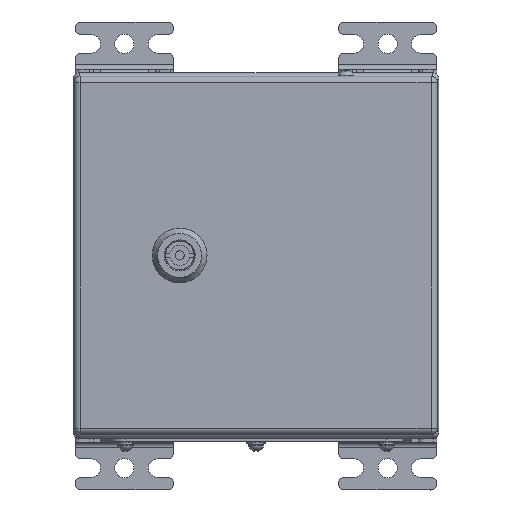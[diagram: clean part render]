
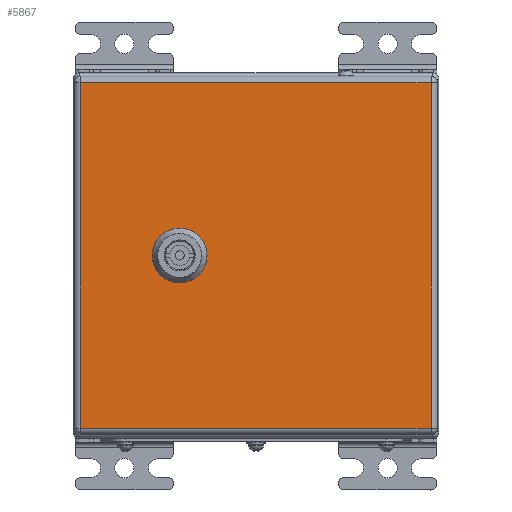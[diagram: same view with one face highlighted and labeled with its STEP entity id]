
A CAD part, top view. The second image highlights one B-rep face of the part: STEP entity #5867.
In plain terms, the highlighted planar face has unit normal (0, 0, 1).
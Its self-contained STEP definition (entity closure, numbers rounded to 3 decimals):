
#5867=ADVANCED_FACE('',(#13867,#13869),#13871,.T.);
#13867=FACE_BOUND('',#13868,.T.);
#13868=EDGE_LOOP('',(#36493,#36494,#36495,#36496));
#13869=FACE_BOUND('',#13870,.T.);
#13870=EDGE_LOOP('',(#36497,#36498,#36499,#36500,#36501,#36502,#36503,#36504));
#13871=PLANE('',#13872);
#13872=AXIS2_PLACEMENT_3D('',#13873,#13874,#13875);
#13873=CARTESIAN_POINT('',(0.,0.,1.5));
#13874=DIRECTION('',(0.,0.,1.));
#13875=DIRECTION('',(1.,0.,0.));
#36493=ORIENTED_EDGE('',*,*,#40963,.T.);
#36494=ORIENTED_EDGE('',*,*,#40964,.T.);
#36495=ORIENTED_EDGE('',*,*,#40965,.T.);
#36496=ORIENTED_EDGE('',*,*,#40966,.T.);
#36497=ORIENTED_EDGE('',*,*,#40925,.T.);
#36498=ORIENTED_EDGE('',*,*,#40940,.T.);
#36499=ORIENTED_EDGE('',*,*,#40938,.T.);
#36500=ORIENTED_EDGE('',*,*,#40936,.T.);
#36501=ORIENTED_EDGE('',*,*,#40934,.T.);
#36502=ORIENTED_EDGE('',*,*,#40932,.T.);
#36503=ORIENTED_EDGE('',*,*,#40930,.T.);
#36504=ORIENTED_EDGE('',*,*,#40928,.T.);
#40925=EDGE_CURVE('',#44552,#44553,#44554,.F.);
#40928=EDGE_CURVE('',#44557,#44552,#44558,.F.);
#40930=EDGE_CURVE('',#44560,#44557,#44561,.F.);
#40932=EDGE_CURVE('',#44563,#44560,#44564,.F.);
#40934=EDGE_CURVE('',#44566,#44563,#44567,.F.);
#40936=EDGE_CURVE('',#44569,#44566,#44570,.F.);
#40938=EDGE_CURVE('',#44572,#44569,#44573,.F.);
#40940=EDGE_CURVE('',#44553,#44572,#44575,.F.);
#40963=EDGE_CURVE('',#44612,#44613,#44614,.T.);
#40964=EDGE_CURVE('',#44613,#44615,#44616,.T.);
#40965=EDGE_CURVE('',#44615,#44617,#44618,.T.);
#40966=EDGE_CURVE('',#44617,#44612,#44619,.T.);
#44552=VERTEX_POINT('',#54154);
#44553=VERTEX_POINT('',#54155);
#44554=LINE('',#54156,#54157);
#44557=VERTEX_POINT('',#54165);
#44558=CIRCLE('',#54166,11.25);
#44560=VERTEX_POINT('',#54173);
#44561=LINE('',#54174,#54175);
#44563=VERTEX_POINT('',#54180);
#44564=CIRCLE('',#54181,11.25);
#44566=VERTEX_POINT('',#54188);
#44567=LINE('',#54189,#54190);
#44569=VERTEX_POINT('',#54195);
#44570=CIRCLE('',#54196,11.25);
#44572=VERTEX_POINT('',#54203);
#44573=LINE('',#54204,#54205);
#44575=CIRCLE('',#54210,11.25);
#44612=VERTEX_POINT('',#54300);
#44613=VERTEX_POINT('',#54301);
#44614=LINE('',#54302,#54303);
#44615=VERTEX_POINT('',#54305);
#44616=LINE('',#54306,#54307);
#44617=VERTEX_POINT('',#54309);
#44618=LINE('',#54310,#54311);
#44619=LINE('',#54313,#54314);
#54154=CARTESIAN_POINT('',(-89.545,-64.6,1.5));
#54155=CARTESIAN_POINT('',(-99.455,-64.6,1.5));
#54156=CARTESIAN_POINT('',(-99.455,-64.6,1.5));
#54157=VECTOR('',#54158,1.);
#54158=DIRECTION('',(1.,0.,0.));
#54165=CARTESIAN_POINT('',(-84.4,-59.455,1.5));
#54166=AXIS2_PLACEMENT_3D('',#54167,#54168,#54169);
#54167=CARTESIAN_POINT('',(-94.5,-54.5,1.5));
#54168=DIRECTION('',(0.,0.,1.));
#54169=DIRECTION('',(0.44,-0.898,0.));
#54173=CARTESIAN_POINT('',(-84.4,-49.545,1.5));
#54174=CARTESIAN_POINT('',(-84.4,-59.455,1.5));
#54175=VECTOR('',#54176,1.);
#54176=DIRECTION('',(0.,1.,0.));
#54180=CARTESIAN_POINT('',(-89.545,-44.4,1.5));
#54181=AXIS2_PLACEMENT_3D('',#54182,#54183,#54184);
#54182=CARTESIAN_POINT('',(-94.5,-54.5,1.5));
#54183=DIRECTION('',(0.,0.,1.));
#54184=DIRECTION('',(0.898,0.44,0.));
#54188=CARTESIAN_POINT('',(-99.455,-44.4,1.5));
#54189=CARTESIAN_POINT('',(-89.545,-44.4,1.5));
#54190=VECTOR('',#54191,1.);
#54191=DIRECTION('',(-1.,0.,0.));
#54195=CARTESIAN_POINT('',(-104.6,-49.545,1.5));
#54196=AXIS2_PLACEMENT_3D('',#54197,#54198,#54199);
#54197=CARTESIAN_POINT('',(-94.5,-54.5,1.5));
#54198=DIRECTION('',(0.,0.,1.));
#54199=DIRECTION('',(-0.44,0.898,0.));
#54203=CARTESIAN_POINT('',(-104.6,-59.455,1.5));
#54204=CARTESIAN_POINT('',(-104.6,-49.545,1.5));
#54205=VECTOR('',#54206,1.);
#54206=DIRECTION('',(0.,-1.,0.));
#54210=AXIS2_PLACEMENT_3D('',#54211,#54212,#54213);
#54211=CARTESIAN_POINT('',(-94.5,-54.5,1.5));
#54212=DIRECTION('',(0.,0.,1.));
#54213=DIRECTION('',(-0.898,-0.44,0.));
#54300=CARTESIAN_POINT('',(-189.,0.,1.5));
#54301=CARTESIAN_POINT('',(-189.,-192.,1.5));
#54302=CARTESIAN_POINT('',(-189.,0.,1.5));
#54303=VECTOR('',#54304,1.);
#54304=DIRECTION('',(0.,-1.,0.));
#54305=CARTESIAN_POINT('',(0.,-192.,1.5));
#54306=CARTESIAN_POINT('',(-189.,-192.,1.5));
#54307=VECTOR('',#54308,1.);
#54308=DIRECTION('',(1.,0.,0.));
#54309=CARTESIAN_POINT('',(0.,0.,1.5));
#54310=CARTESIAN_POINT('',(0.,-192.,1.5));
#54311=VECTOR('',#54312,1.);
#54312=DIRECTION('',(0.,1.,0.));
#54313=CARTESIAN_POINT('',(0.,0.,1.5));
#54314=VECTOR('',#54315,1.);
#54315=DIRECTION('',(-1.,0.,0.));
